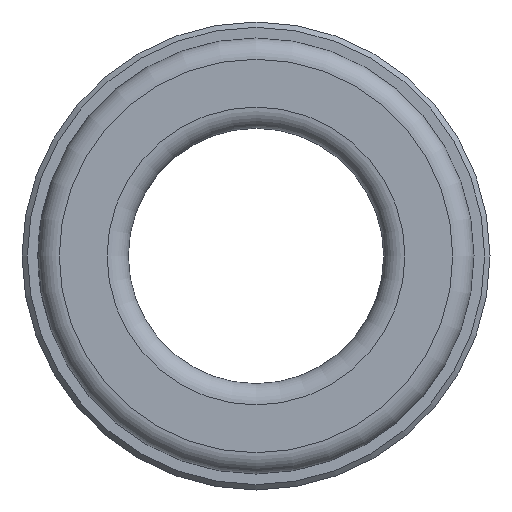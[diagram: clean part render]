
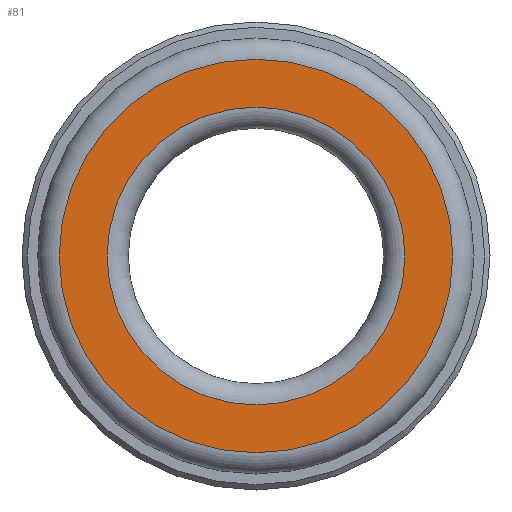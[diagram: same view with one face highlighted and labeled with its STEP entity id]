
A CAD part, left-side view. The second image highlights one B-rep face of the part: STEP entity #81.
In plain terms, the highlighted planar face has unit normal (-1, 0, 0).
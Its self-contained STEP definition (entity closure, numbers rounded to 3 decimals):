
#81 = ADVANCED_FACE( '', ( #178, #179 ), #180, .T. );
#178 = FACE_BOUND( '', #271, .T. );
#179 = FACE_OUTER_BOUND( '', #272, .T. );
#180 = PLANE( '', #273 );
#271 = EDGE_LOOP( '', ( #394 ) );
#272 = EDGE_LOOP( '', ( #395 ) );
#273 = AXIS2_PLACEMENT_3D( '', #396, #397, #398 );
#394 = ORIENTED_EDGE( '', *, *, #449, .T. );
#395 = ORIENTED_EDGE( '', *, *, #451, .F. );
#396 = CARTESIAN_POINT( '', ( -48., 18.5, 0. ) );
#397 = DIRECTION( '', ( -1., 0., 0. ) );
#398 = DIRECTION( '', ( 0., 0., 1. ) );
#449 = EDGE_CURVE( '', #512, #512, #513, .T. );
#451 = EDGE_CURVE( '', #515, #515, #516, .T. );
#512 = VERTEX_POINT( '', #707 );
#513 = CIRCLE( '', #708, 14. );
#515 = VERTEX_POINT( '', #710 );
#516 = CIRCLE( '', #711, 18.5 );
#707 = CARTESIAN_POINT( '', ( -48., 0., -14. ) );
#708 = AXIS2_PLACEMENT_3D( '', #768, #769, #770 );
#710 = CARTESIAN_POINT( '', ( -48., 0., -18.5 ) );
#711 = AXIS2_PLACEMENT_3D( '', #771, #772, #773 );
#768 = CARTESIAN_POINT( '', ( -48., 0., 0. ) );
#769 = DIRECTION( '', ( 1., 0., 0. ) );
#770 = DIRECTION( '', ( 0., 0., -1. ) );
#771 = CARTESIAN_POINT( '', ( -48., 0., 0. ) );
#772 = DIRECTION( '', ( 1., 0., 0. ) );
#773 = DIRECTION( '', ( 0., 0., -1. ) );
